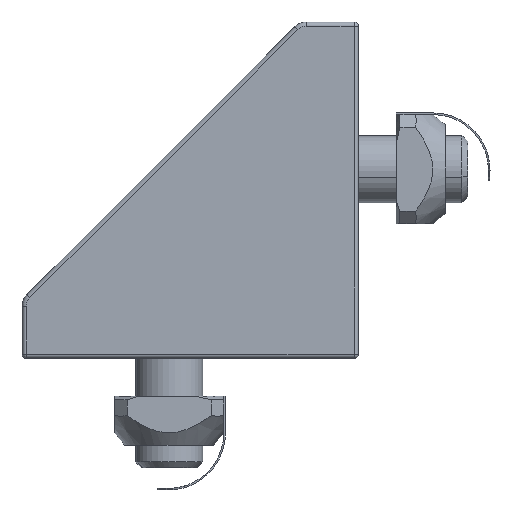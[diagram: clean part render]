
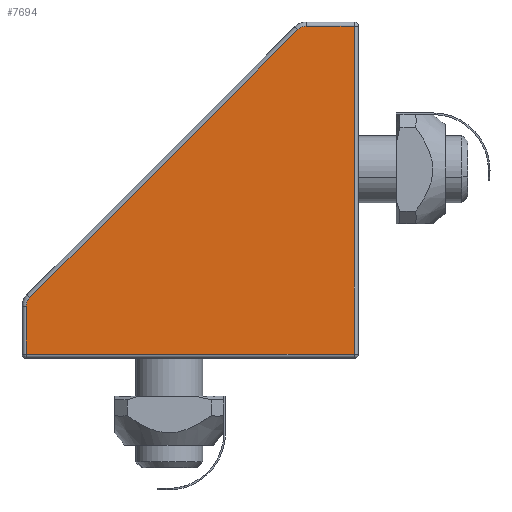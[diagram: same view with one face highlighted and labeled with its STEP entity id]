
A CAD part, left-side view. The second image highlights one B-rep face of the part: STEP entity #7694.
In plain terms, the highlighted planar face has unit normal (-1, 0, 0).
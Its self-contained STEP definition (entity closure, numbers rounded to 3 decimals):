
#104 = CARTESIAN_POINT ( 'NONE',  ( -13.01, -7.251, 14.292 ) ) ;
#604 = EDGE_LOOP ( 'NONE', ( #7196, #6539, #8753, #8969, #5177, #2451, #10032 ) ) ;
#618 = CIRCLE ( 'NONE', #2252, 1.5 ) ;
#814 = EDGE_CURVE ( 'NONE', #3791, #2925, #7064, .T. ) ;
#863 = LINE ( 'NONE', #5347, #3007 ) ;
#883 = VECTOR ( 'NONE', #4935, 1000. ) ;
#884 = DIRECTION ( 'NONE',  ( 0., 1., 0. ) ) ;
#1015 = CARTESIAN_POINT ( 'NONE',  ( -13.01, -19.497, 20.246 ) ) ;
#1171 = EDGE_CURVE ( 'NONE', #4937, #4099, #4030, .T. ) ;
#1601 = CARTESIAN_POINT ( 'NONE',  ( -13.01, -13.826, 20.246 ) ) ;
#2159 = DIRECTION ( 'NONE',  ( 0., 0., -1. ) ) ;
#2252 = AXIS2_PLACEMENT_3D ( 'NONE', #4568, #5335, #6208 ) ;
#2342 = VECTOR ( 'NONE', #884, 1000. ) ;
#2451 = ORIENTED_EDGE ( 'NONE', *, *, #3789, .T. ) ;
#2684 = DIRECTION ( 'NONE',  ( 1., 0., 0. ) ) ;
#2724 = EDGE_CURVE ( 'NONE', #2925, #8020, #7107, .T. ) ;
#2925 = VERTEX_POINT ( 'NONE', #7166 ) ;
#2984 = CARTESIAN_POINT ( 'NONE',  ( -13.01, -12.765, 19.807 ) ) ;
#3007 = VECTOR ( 'NONE', #3137, 1000. ) ;
#3022 = CARTESIAN_POINT ( 'NONE',  ( -13.01, -19.497, -18.754 ) ) ;
#3137 = DIRECTION ( 'NONE',  ( 0., 0., -1. ) ) ;
#3198 = DIRECTION ( 'NONE',  ( 0., 0.707, -0.707 ) ) ;
#3401 = VECTOR ( 'NONE', #3403, 1000. ) ;
#3403 = DIRECTION ( 'NONE',  ( 0., -1., 0. ) ) ;
#3789 = EDGE_CURVE ( 'NONE', #8020, #9861, #863, .T. ) ;
#3791 = VERTEX_POINT ( 'NONE', #2984 ) ;
#3904 = EDGE_CURVE ( 'NONE', #4369, #4937, #6410, .T. ) ;
#4030 = LINE ( 'NONE', #8592, #2342 ) ;
#4093 = EDGE_CURVE ( 'NONE', #4099, #3791, #618, .T. ) ;
#4099 = VERTEX_POINT ( 'NONE', #1601 ) ;
#4369 = VERTEX_POINT ( 'NONE', #3022 ) ;
#4568 = CARTESIAN_POINT ( 'NONE',  ( -13.01, -13.826, 18.746 ) ) ;
#4935 = DIRECTION ( 'NONE',  ( 0., 0., 1. ) ) ;
#4937 = VERTEX_POINT ( 'NONE', #1015 ) ;
#4939 = CARTESIAN_POINT ( 'NONE',  ( -13.01, -19.997, -18.754 ) ) ;
#5177 = ORIENTED_EDGE ( 'NONE', *, *, #2724, .T. ) ;
#5335 = DIRECTION ( 'NONE',  ( -1., 0., 0. ) ) ;
#5347 = CARTESIAN_POINT ( 'NONE',  ( -13.01, 19.503, -19.254 ) ) ;
#5365 = AXIS2_PLACEMENT_3D ( 'NONE', #9643, #2684, #8874 ) ;
#5376 = CARTESIAN_POINT ( 'NONE',  ( -13.01, 19.503, -13.083 ) ) ;
#5914 = CARTESIAN_POINT ( 'NONE',  ( -13.01, 18.003, -13.083 ) ) ;
#6208 = DIRECTION ( 'NONE',  ( 0., 0., -1. ) ) ;
#6410 = LINE ( 'NONE', #9474, #883 ) ;
#6525 = FACE_OUTER_BOUND ( 'NONE', #604, .T. ) ;
#6539 = ORIENTED_EDGE ( 'NONE', *, *, #1171, .T. ) ;
#6977 = EDGE_CURVE ( 'NONE', #9861, #4369, #9783, .T. ) ;
#7064 = LINE ( 'NONE', #104, #8849 ) ;
#7107 = CIRCLE ( 'NONE', #8237, 1.5 ) ;
#7166 = CARTESIAN_POINT ( 'NONE',  ( -13.01, 19.063, -12.022 ) ) ;
#7196 = ORIENTED_EDGE ( 'NONE', *, *, #3904, .T. ) ;
#7509 = PLANE ( 'NONE',  #5365 ) ;
#7573 = DIRECTION ( 'NONE',  ( -1., 0., 0. ) ) ;
#7662 = CARTESIAN_POINT ( 'NONE',  ( -13.01, 19.503, -18.754 ) ) ;
#7694 = ADVANCED_FACE ( 'NONE', ( #6525 ), #7509, .F. ) ;
#8020 = VERTEX_POINT ( 'NONE', #5376 ) ;
#8237 = AXIS2_PLACEMENT_3D ( 'NONE', #5914, #7573, #2159 ) ;
#8592 = CARTESIAN_POINT ( 'NONE',  ( -13.01, -13.826, 20.246 ) ) ;
#8753 = ORIENTED_EDGE ( 'NONE', *, *, #4093, .T. ) ;
#8849 = VECTOR ( 'NONE', #3198, 1000. ) ;
#8874 = DIRECTION ( 'NONE',  ( 0., 0., 1. ) ) ;
#8969 = ORIENTED_EDGE ( 'NONE', *, *, #814, .T. ) ;
#9474 = CARTESIAN_POINT ( 'NONE',  ( -13.01, -19.497, 20.746 ) ) ;
#9643 = CARTESIAN_POINT ( 'NONE',  ( -13.01, -20.797, 0.746 ) ) ;
#9783 = LINE ( 'NONE', #4939, #3401 ) ;
#9861 = VERTEX_POINT ( 'NONE', #7662 ) ;
#10032 = ORIENTED_EDGE ( 'NONE', *, *, #6977, .T. ) ;
